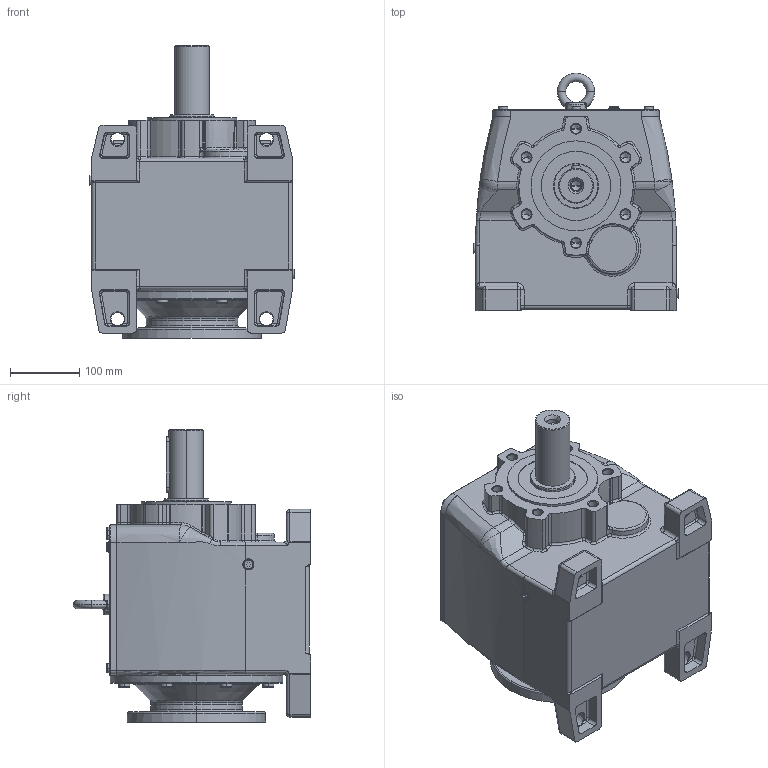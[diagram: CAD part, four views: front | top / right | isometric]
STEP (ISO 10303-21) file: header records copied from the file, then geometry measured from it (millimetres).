
FILE_DESCRIPTION (( 'STEP AP214' ), '1' );
FILE_NAME ('MTC62A-132-165.STEP', '2006-05-05T07:44:06', ( '' ), ( '' ), 'SwSTEP 2.0', 'SolidWorks 2004146', '' );
FILE_SCHEMA (( 'AUTOMOTIVE_DESIGN' ));
Length unit declared in the file: millimetre
Products named in the file (4): D6912_Šroub DIN 6912 - M8x25; Pøíruba MRT150 kulatá _130-165-188; Skrin MTC6_A_MTC62A_AP132; MTC62A-132-165
Assembly tree (8 placements, depth 2):
  MTC62A-132-165
    D6912_Šroub DIN 6912 - M8x25  x6
    Pøíruba MRT150 kulatá _130-165-188
    Skrin MTC6_A_MTC62A_AP132
Bounding box: 297 x 343 x 422.5 mm (x, y, z)
Volume: 19238775 mm3; surface area: 627674 mm2
Topology: 8 solids, 8 shells, 1164 faces, 2632 edges, 1528 vertices
Faces by surface type: plane 368, cylinder 303, torus 217, cone 200, bspline 65, sphere 11
Entity records: 70151 total; most frequent: CARTESIAN_POINT 43816, DIRECTION 5018, ORIENTED_EDGE 4532, EDGE_CURVE 2266, AXIS2_PLACEMENT_3D 2018, VERTEX_POINT 1373, CIRCLE 1093, EDGE_LOOP 1091
